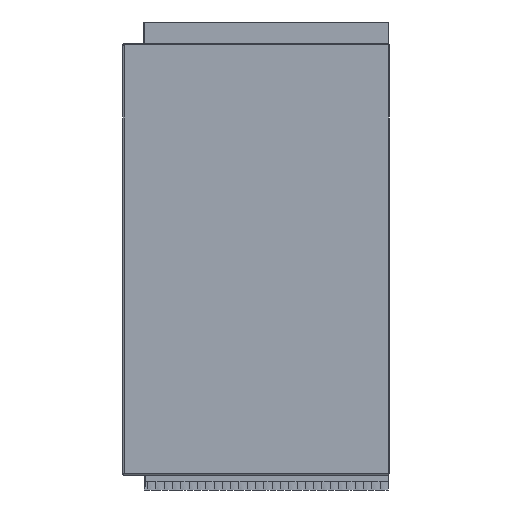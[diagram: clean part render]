
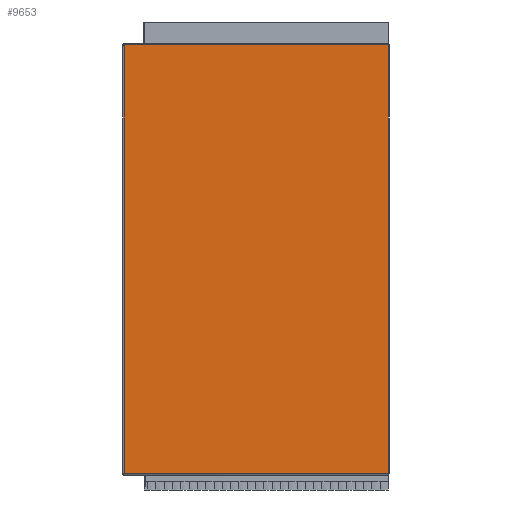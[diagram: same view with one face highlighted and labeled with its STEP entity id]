
A CAD part, front view. The second image highlights one B-rep face of the part: STEP entity #9653.
In plain terms, the highlighted planar face has unit normal (0, -1, 0).
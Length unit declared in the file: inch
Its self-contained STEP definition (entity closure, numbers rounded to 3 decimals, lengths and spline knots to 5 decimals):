
#82 = DIRECTION ( 'NONE',  ( -1., 0., 0. ) ) ;
#242 = ORIENTED_EDGE ( 'NONE', *, *, #9403, .T. ) ;
#247 = VECTOR ( 'NONE', #1525, 39.37008 ) ;
#487 = LINE ( 'NONE', #9868, #13318 ) ;
#896 = VECTOR ( 'NONE', #10239, 39.37008 ) ;
#1462 = ORIENTED_EDGE ( 'NONE', *, *, #9123, .T. ) ;
#1525 = DIRECTION ( 'NONE',  ( 0., 0., 1. ) ) ;
#1619 = CARTESIAN_POINT ( 'NONE',  ( 0.062, -0.026, 0.032 ) ) ;
#1669 = VERTEX_POINT ( 'NONE', #3836 ) ;
#1705 = ORIENTED_EDGE ( 'NONE', *, *, #9669, .T. ) ;
#1884 = CARTESIAN_POINT ( 'NONE',  ( 12., -0.026, 19.416 ) ) ;
#2109 = VERTEX_POINT ( 'NONE', #20007 ) ;
#2200 = VECTOR ( 'NONE', #14791, 39.37008 ) ;
#2902 = PLANE ( 'NONE',  #6860 ) ;
#3836 = CARTESIAN_POINT ( 'NONE',  ( 12.00337, -0.026, 19.416 ) ) ;
#4106 = LINE ( 'NONE', #11664, #896 ) ;
#4442 = CARTESIAN_POINT ( 'NONE',  ( 12.00337, -0.026, 0.032 ) ) ;
#6729 = EDGE_LOOP ( 'NONE', ( #20041, #9861, #9129, #1462, #1705, #242 ) ) ;
#6850 = EDGE_CURVE ( 'NONE', #2109, #14513, #15817, .T. ) ;
#6860 = AXIS2_PLACEMENT_3D ( 'NONE', #7479, #17002, #10516 ) ;
#7479 = CARTESIAN_POINT ( 'NONE',  ( 13., -0.026, 0.032 ) ) ;
#9123 = EDGE_CURVE ( 'NONE', #2109, #12969, #487, .T. ) ;
#9129 = ORIENTED_EDGE ( 'NONE', *, *, #6850, .F. ) ;
#9146 = VERTEX_POINT ( 'NONE', #11412 ) ;
#9185 = VERTEX_POINT ( 'NONE', #14469 ) ;
#9190 = FACE_OUTER_BOUND ( 'NONE', #6729, .T. ) ;
#9246 = VECTOR ( 'NONE', #82, 39.37008 ) ;
#9403 = EDGE_CURVE ( 'NONE', #1669, #9146, #19396, .T. ) ;
#9653 = ADVANCED_FACE ( 'NONE', ( #9190 ), #2902, .T. ) ;
#9669 = EDGE_CURVE ( 'NONE', #12969, #1669, #14277, .T. ) ;
#9861 = ORIENTED_EDGE ( 'NONE', *, *, #17851, .T. ) ;
#9868 = CARTESIAN_POINT ( 'NONE',  ( 12., -0.026, 0.032 ) ) ;
#10239 = DIRECTION ( 'NONE',  ( 0., 0., -1. ) ) ;
#10516 = DIRECTION ( 'NONE',  ( 0., 0., -1. ) ) ;
#10573 = VECTOR ( 'NONE', #19749, 39.37008 ) ;
#11412 = CARTESIAN_POINT ( 'NONE',  ( 12., -0.026, 19.416 ) ) ;
#11622 = DIRECTION ( 'NONE',  ( 1., 0., 0. ) ) ;
#11664 = CARTESIAN_POINT ( 'NONE',  ( 0.062, -0.026, 0.032 ) ) ;
#12969 = VERTEX_POINT ( 'NONE', #4442 ) ;
#13318 = VECTOR ( 'NONE', #11622, 39.37008 ) ;
#14277 = LINE ( 'NONE', #15469, #247 ) ;
#14469 = CARTESIAN_POINT ( 'NONE',  ( 0.062, -0.026, 19.416 ) ) ;
#14513 = VERTEX_POINT ( 'NONE', #1619 ) ;
#14791 = DIRECTION ( 'NONE',  ( -1., 0., 0. ) ) ;
#14867 = CARTESIAN_POINT ( 'NONE',  ( 13., -0.026, 19.416 ) ) ;
#15469 = CARTESIAN_POINT ( 'NONE',  ( 12.00337, -0.026, 19.416 ) ) ;
#15482 = EDGE_CURVE ( 'NONE', #9146, #9185, #17625, .T. ) ;
#15817 = LINE ( 'NONE', #18702, #9246 ) ;
#17002 = DIRECTION ( 'NONE',  ( 0., -1., 0. ) ) ;
#17625 = LINE ( 'NONE', #14867, #10573 ) ;
#17851 = EDGE_CURVE ( 'NONE', #9185, #14513, #4106, .T. ) ;
#18702 = CARTESIAN_POINT ( 'NONE',  ( 13., -0.026, 0.032 ) ) ;
#19396 = LINE ( 'NONE', #1884, #2200 ) ;
#19749 = DIRECTION ( 'NONE',  ( -1., 0., 0. ) ) ;
#20007 = CARTESIAN_POINT ( 'NONE',  ( 12., -0.026, 0.032 ) ) ;
#20041 = ORIENTED_EDGE ( 'NONE', *, *, #15482, .T. ) ;
